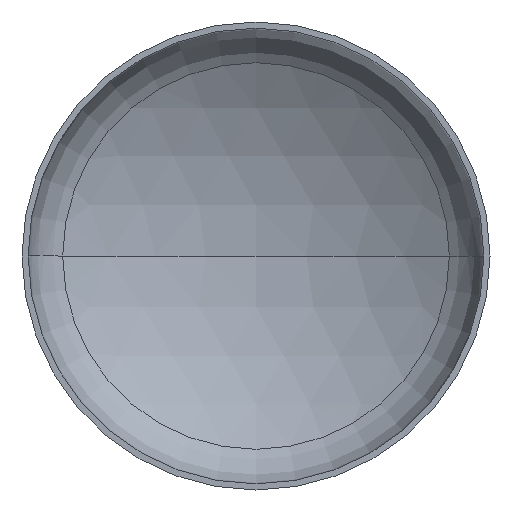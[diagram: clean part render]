
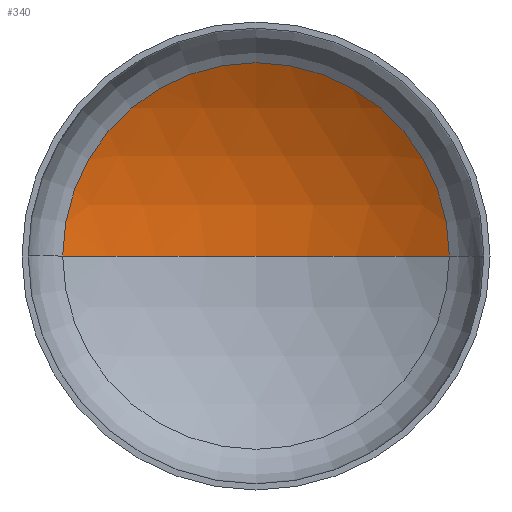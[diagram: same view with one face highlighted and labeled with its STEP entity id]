
A CAD part, front view. The second image highlights one B-rep face of the part: STEP entity #340.
In plain terms, the highlighted spherical face has radius 1520 mm.
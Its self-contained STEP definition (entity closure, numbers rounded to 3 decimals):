
#29 = AXIS2_PLACEMENT_3D ( 'NONE', #109, #287, #157 ) ;
#31 = VERTEX_POINT ( 'NONE', #168 ) ;
#34 = DIRECTION ( 'NONE',  ( -1., 0., 0. ) ) ;
#36 = AXIS2_PLACEMENT_3D ( 'NONE', #337, #206, #359 ) ;
#37 = AXIS2_PLACEMENT_3D ( 'NONE', #356, #224, #387 ) ;
#45 = ORIENTED_EDGE ( 'NONE', *, *, #90, .T. ) ;
#51 = ORIENTED_EDGE ( 'NONE', *, *, #156, .F. ) ;
#69 = VERTEX_POINT ( 'NONE', #223 ) ;
#76 = CIRCLE ( 'NONE', #36, 1520. ) ;
#90 = EDGE_CURVE ( 'NONE', #69, #125, #299, .T. ) ;
#109 = CARTESIAN_POINT ( 'NONE',  ( 0., -978.411, 0. ) ) ;
#125 = VERTEX_POINT ( 'NONE', #333 ) ;
#130 = EDGE_CURVE ( 'NONE', #31, #69, #76, .T. ) ;
#134 = EDGE_LOOP ( 'NONE', ( #51, #266, #45 ) ) ;
#156 = EDGE_CURVE ( 'NONE', #31, #125, #371, .T. ) ;
#157 = DIRECTION ( 'NONE',  ( 1., 0., 0. ) ) ;
#168 = CARTESIAN_POINT ( 'NONE',  ( 0., 541.589, 0. ) ) ;
#206 = DIRECTION ( 'NONE',  ( 0., 0., -1. ) ) ;
#223 = CARTESIAN_POINT ( 'NONE',  ( 784.715, 323.365, 0. ) ) ;
#224 = DIRECTION ( 'NONE',  ( 0., -1., 0. ) ) ;
#263 = SPHERICAL_SURFACE ( 'NONE', #352, 1520. ) ;
#266 = ORIENTED_EDGE ( 'NONE', *, *, #130, .T. ) ;
#287 = DIRECTION ( 'NONE',  ( 0., 0., 1. ) ) ;
#291 = DIRECTION ( 'NONE',  ( 0., 0., -1. ) ) ;
#299 = CIRCLE ( 'NONE', #37, 784.715 ) ;
#333 = CARTESIAN_POINT ( 'NONE',  ( -784.715, 323.365, 0. ) ) ;
#337 = CARTESIAN_POINT ( 'NONE',  ( 0., -978.411, 0. ) ) ;
#340 = ADVANCED_FACE ( 'NONE', ( #391 ), #263, .F. ) ;
#352 = AXIS2_PLACEMENT_3D ( 'NONE', #366, #291, #34 ) ;
#356 = CARTESIAN_POINT ( 'NONE',  ( 0., 323.365, 0. ) ) ;
#359 = DIRECTION ( 'NONE',  ( -1., 0., 0. ) ) ;
#366 = CARTESIAN_POINT ( 'NONE',  ( 0., -978.411, 0. ) ) ;
#371 = CIRCLE ( 'NONE', #29, 1520. ) ;
#387 = DIRECTION ( 'NONE',  ( 1., 0., 0. ) ) ;
#391 = FACE_OUTER_BOUND ( 'NONE', #134, .T. ) ;
